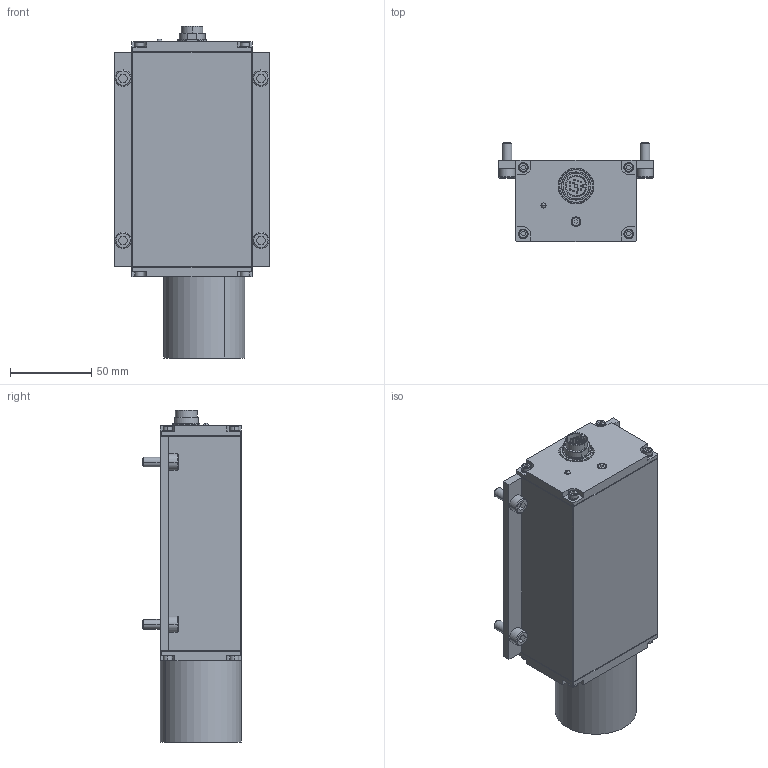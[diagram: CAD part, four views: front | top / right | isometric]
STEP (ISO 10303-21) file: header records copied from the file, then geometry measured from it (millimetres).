
FILE_DESCRIPTION((''),'2;1');
FILE_NAME('012840-103-26_STP-G001-F0','2013-02-15T',(''),(''),'PRO/ENGINEER BY PARAMETRIC TECHNOLOGY CORPORATION, 2011490','PRO/ENGINEER BY PARAMETRIC TECHNOLOGY CORPORATION, 2011490','');
FILE_SCHEMA(('AUTOMOTIVE_DESIGN_CC2 { 1 2 10303 214 -1 1 5 2 }'));
Products named in the file (1): 012840-103-26_STP-G001-F0
Bounding box: 96 x 61 x 204.6 mm (x, y, z)
Surface area: 79873.8 mm2 (no closed solid volume)
Topology: 0 solids, 175 shells, 851 faces, 6812 edges, 6144 vertices
Faces by surface type: plane 383, cylinder 228, cone 162, torus 48, sphere 28, bspline 2
Entity records: 74319 total; most frequent: CARTESIAN_POINT 21918, DIRECTION 8340, ORIENTED_EDGE 8298, EDGE_CURVE 6784, VERTEX_POINT 6144, VECTOR 2946, LINE 2946, AXIS2_PLACEMENT_3D 2697
